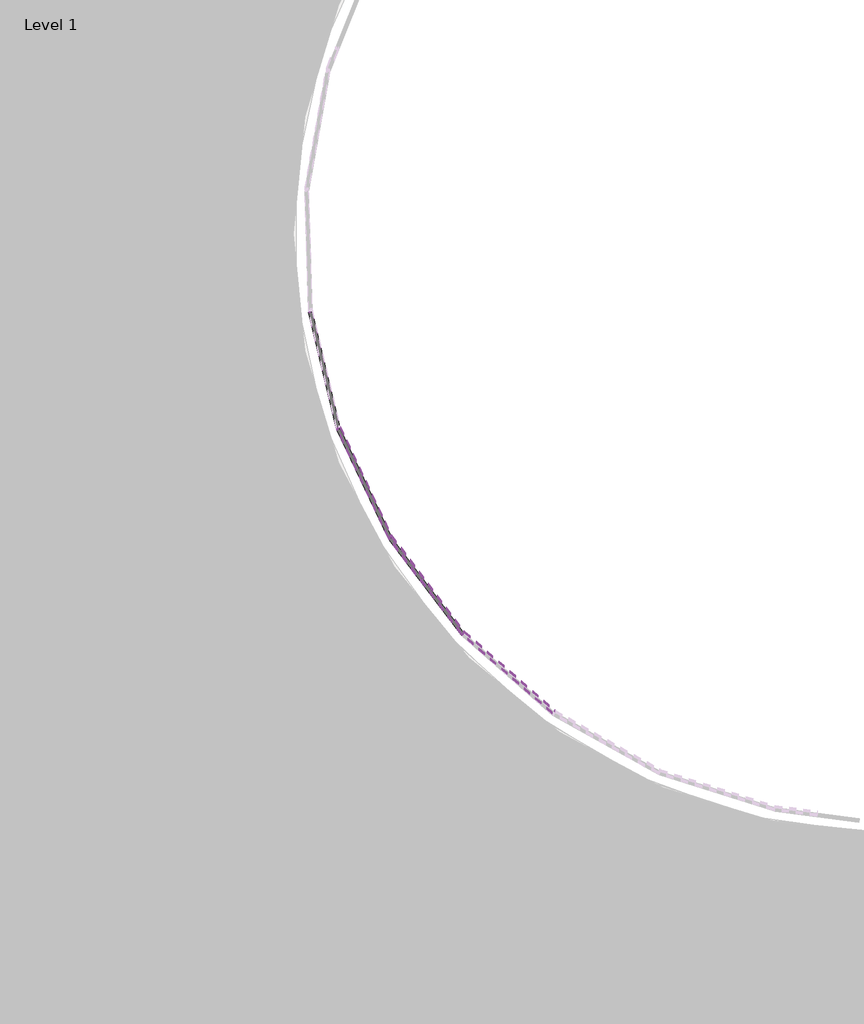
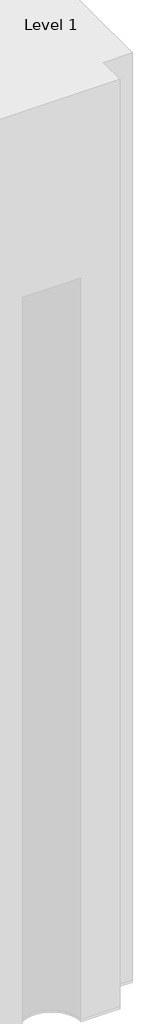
# One storey, part 11 of 20: 124 plates.
"""IFC4 building model written with IfcOpenShell, lengths in millimetres."""

from ifc_helpers import new_model, si_unit, origin, place, context, project, spatial, transform, mapped, element, save
from components import system_panel_glazed_d77d1ebf

model = new_model("IFC4")

# Units and contexts
model_context = context("Model", 3, world=origin())
ifc_project = project(units=[si_unit("LENGTHUNIT", "METRE", prefix="MILLI")], contexts=[model_context])

# Site, building, storey
site = spatial("IfcSite", under=ifc_project)
building = spatial("IfcBuilding", under=site)
storey = spatial("IfcBuildingStorey", under=building, Name="Level 1", Elevation=0.0)

# Plates
placement = place(None, origin())
system_panel_glazed_shape = system_panel_glazed_d77d1ebf(model_context)
element("IfcPlate", 1, ObjectType="System Panel : Glazed", at=placement, inside=storey, context=model_context, shape_type="MappedRepresentation", body=[
    mapped(system_panel_glazed_shape, transform((14455.7045003, -7223.0371257, 0.0), x_axis=(0.23385091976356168, -0.9722724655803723, 0.0), y_axis=(0.9722724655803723, 0.23385091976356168, 0.0), z_axis=(0.0, 0.0, 1.0))),
])
element("IfcPlate", 2, ObjectType="System Panel : Glazed", at=placement, inside=storey, context=model_context, shape_type="MappedRepresentation", body=[
    mapped(system_panel_glazed_shape, transform((14758.1742249, -8080.8285707, 0.0), x_axis=(0.4277189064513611, -0.9039117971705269, 0.0), y_axis=(0.9039117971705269, 0.4277189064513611, 0.0), z_axis=(0.0, 0.0, 1.0))),
])
element("IfcPlate", 3, ObjectType="System Panel : Glazed", at=placement, inside=storey, context=model_context, shape_type="MappedRepresentation", body=[
    mapped(system_panel_glazed_shape, transform((15229.6531587, -8858.6471307, 0.0), x_axis=(0.6035123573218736, -0.7973536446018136, 0.0), y_axis=(0.7973536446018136, 0.6035123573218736, 0.0), z_axis=(0.0, 0.0, 1.0))),
])
element("IfcPlate", 4, ObjectType="System Panel : Glazed", at=placement, inside=storey, context=model_context, shape_type="MappedRepresentation", body=[
    mapped(system_panel_glazed_shape, transform((14455.7045003, -7223.0371257, 3048.0), x_axis=(0.23385091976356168, -0.9722724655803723, 0.0), y_axis=(0.9722724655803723, 0.23385091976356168, 0.0), z_axis=(0.0, 0.0, 1.0))),
])
element("IfcPlate", 5, ObjectType="System Panel : Glazed", at=placement, inside=storey, context=model_context, shape_type="MappedRepresentation", body=[
    mapped(system_panel_glazed_shape, transform((14758.1742249, -8080.8285707, 3048.0), x_axis=(0.4277189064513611, -0.9039117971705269, 0.0), y_axis=(0.9039117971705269, 0.4277189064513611, 0.0), z_axis=(0.0, 0.0, 1.0))),
])
element("IfcPlate", 6, ObjectType="System Panel : Glazed", at=placement, inside=storey, context=model_context, shape_type="MappedRepresentation", body=[
    mapped(system_panel_glazed_shape, transform((15229.6531587, -8858.6471307, 3048.0), x_axis=(0.6035123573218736, -0.7973536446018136, 0.0), y_axis=(0.7973536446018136, 0.6035123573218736, 0.0), z_axis=(0.0, 0.0, 1.0))),
])
element("IfcPlate", 7, ObjectType="System Panel : Glazed", at=placement, inside=storey, context=model_context, shape_type="MappedRepresentation", body=[
    mapped(system_panel_glazed_shape, transform((14455.7045003, -7223.0371257, 6096.0), x_axis=(0.23385091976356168, -0.9722724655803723, 0.0), y_axis=(0.9722724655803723, 0.23385091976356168, 0.0), z_axis=(0.0, 0.0, 1.0))),
])
element("IfcPlate", 8, ObjectType="System Panel : Glazed", at=placement, inside=storey, context=model_context, shape_type="MappedRepresentation", body=[
    mapped(system_panel_glazed_shape, transform((14758.1742249, -8080.8285707, 6096.0), x_axis=(0.4277189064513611, -0.9039117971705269, 0.0), y_axis=(0.9039117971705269, 0.4277189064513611, 0.0), z_axis=(0.0, 0.0, 1.0))),
])
element("IfcPlate", 9, ObjectType="System Panel : Glazed", at=placement, inside=storey, context=model_context, shape_type="MappedRepresentation", body=[
    mapped(system_panel_glazed_shape, transform((15229.6531587, -8858.6471307, 6096.0), x_axis=(0.6035123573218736, -0.7973536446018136, 0.0), y_axis=(0.7973536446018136, 0.6035123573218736, 0.0), z_axis=(0.0, 0.0, 1.0))),
])
element("IfcPlate", 10, ObjectType="System Panel : Glazed", at=placement, inside=storey, context=model_context, shape_type="MappedRepresentation", body=[
    mapped(system_panel_glazed_shape, transform((14455.7045003, -7223.0371257, 9144.0), x_axis=(0.23385091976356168, -0.9722724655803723, 0.0), y_axis=(0.9722724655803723, 0.23385091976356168, 0.0), z_axis=(0.0, 0.0, 1.0))),
])
element("IfcPlate", 11, ObjectType="System Panel : Glazed", at=placement, inside=storey, context=model_context, shape_type="MappedRepresentation", body=[
    mapped(system_panel_glazed_shape, transform((14758.1742249, -8080.8285707, 9144.0), x_axis=(0.4277189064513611, -0.9039117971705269, 0.0), y_axis=(0.9039117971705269, 0.4277189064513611, 0.0), z_axis=(0.0, 0.0, 1.0))),
])
element("IfcPlate", 12, ObjectType="System Panel : Glazed", at=placement, inside=storey, context=model_context, shape_type="MappedRepresentation", body=[
    mapped(system_panel_glazed_shape, transform((15229.6531587, -8858.6471307, 9144.0), x_axis=(0.6035123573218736, -0.7973536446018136, 0.0), y_axis=(0.7973536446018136, 0.6035123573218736, 0.0), z_axis=(0.0, 0.0, 1.0))),
])
element("IfcPlate", 13, ObjectType="System Panel : Glazed", at=placement, inside=storey, context=model_context, shape_type="MappedRepresentation", body=[
    mapped(system_panel_glazed_shape, transform((14455.7045003, -7223.0371257, 12192.0), x_axis=(0.23385091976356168, -0.9722724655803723, 0.0), y_axis=(0.9722724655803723, 0.23385091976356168, 0.0), z_axis=(0.0, 0.0, 1.0))),
])
element("IfcPlate", 14, ObjectType="System Panel : Glazed", at=placement, inside=storey, context=model_context, shape_type="MappedRepresentation", body=[
    mapped(system_panel_glazed_shape, transform((14758.1742249, -8080.8285707, 12192.0), x_axis=(0.4277189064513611, -0.9039117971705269, 0.0), y_axis=(0.9039117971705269, 0.4277189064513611, 0.0), z_axis=(0.0, 0.0, 1.0))),
])
element("IfcPlate", 15, ObjectType="System Panel : Glazed", at=placement, inside=storey, context=model_context, shape_type="MappedRepresentation", body=[
    mapped(system_panel_glazed_shape, transform((15229.6531587, -8858.6471307, 12192.0), x_axis=(0.6035123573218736, -0.7973536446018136, 0.0), y_axis=(0.7973536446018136, 0.6035123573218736, 0.0), z_axis=(0.0, 0.0, 1.0))),
])
element("IfcPlate", 16, ObjectType="System Panel : Glazed", at=placement, inside=storey, context=model_context, shape_type="MappedRepresentation", body=[
    mapped(system_panel_glazed_shape, transform((14455.7045003, -7223.0371257, 15240.0), x_axis=(0.23385091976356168, -0.9722724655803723, 0.0), y_axis=(0.9722724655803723, 0.23385091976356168, 0.0), z_axis=(0.0, 0.0, 1.0))),
])
element("IfcPlate", 17, ObjectType="System Panel : Glazed", at=placement, inside=storey, context=model_context, shape_type="MappedRepresentation", body=[
    mapped(system_panel_glazed_shape, transform((14758.1742249, -8080.8285707, 15240.0), x_axis=(0.4277189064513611, -0.9039117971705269, 0.0), y_axis=(0.9039117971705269, 0.4277189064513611, 0.0), z_axis=(0.0, 0.0, 1.0))),
])
element("IfcPlate", 18, ObjectType="System Panel : Glazed", at=placement, inside=storey, context=model_context, shape_type="MappedRepresentation", body=[
    mapped(system_panel_glazed_shape, transform((15229.6531587, -8858.6471307, 15240.0), x_axis=(0.6035123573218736, -0.7973536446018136, 0.0), y_axis=(0.7973536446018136, 0.6035123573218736, 0.0), z_axis=(0.0, 0.0, 1.0))),
])
element("IfcPlate", 19, ObjectType="System Panel : Glazed", at=placement, inside=storey, context=model_context, shape_type="MappedRepresentation", body=[
    mapped(system_panel_glazed_shape, transform((14455.7045003, -7223.0371257, 18288.0), x_axis=(0.23385091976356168, -0.9722724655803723, 0.0), y_axis=(0.9722724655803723, 0.23385091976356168, 0.0), z_axis=(0.0, 0.0, 1.0))),
])
element("IfcPlate", 20, ObjectType="System Panel : Glazed", at=placement, inside=storey, context=model_context, shape_type="MappedRepresentation", body=[
    mapped(system_panel_glazed_shape, transform((14758.1742249, -8080.8285707, 18288.0), x_axis=(0.4277189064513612, -0.9039117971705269, 0.0), y_axis=(0.9039117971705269, 0.4277189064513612, 0.0), z_axis=(0.0, 0.0, 1.0))),
])
element("IfcPlate", 21, ObjectType="System Panel : Glazed", at=placement, inside=storey, context=model_context, shape_type="MappedRepresentation", body=[
    mapped(system_panel_glazed_shape, transform((15229.6531587, -8858.6471307, 18288.0), x_axis=(0.6035123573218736, -0.7973536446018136, 0.0), y_axis=(0.7973536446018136, 0.6035123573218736, 0.0), z_axis=(0.0, 0.0, 1.0))),
])
element("IfcPlate", 22, ObjectType="System Panel : Glazed", at=placement, inside=storey, context=model_context, shape_type="MappedRepresentation", body=[
    mapped(system_panel_glazed_shape, transform((14455.7045003, -7223.0371257, 21336.0), x_axis=(0.23385091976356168, -0.9722724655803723, 0.0), y_axis=(0.9722724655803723, 0.23385091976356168, 0.0), z_axis=(0.0, 0.0, 1.0))),
])
element("IfcPlate", 23, ObjectType="System Panel : Glazed", at=placement, inside=storey, context=model_context, shape_type="MappedRepresentation", body=[
    mapped(system_panel_glazed_shape, transform((14758.1742249, -8080.8285707, 21336.0), x_axis=(0.4277189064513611, -0.9039117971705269, 0.0), y_axis=(0.9039117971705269, 0.4277189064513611, 0.0), z_axis=(0.0, 0.0, 1.0))),
])
element("IfcPlate", 24, ObjectType="System Panel : Glazed", at=placement, inside=storey, context=model_context, shape_type="MappedRepresentation", body=[
    mapped(system_panel_glazed_shape, transform((15229.6531587, -8858.6471307, 21336.0), x_axis=(0.6035123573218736, -0.7973536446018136, 0.0), y_axis=(0.7973536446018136, 0.6035123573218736, 0.0), z_axis=(0.0, 0.0, 1.0))),
])
element("IfcPlate", 25, ObjectType="System Panel : Glazed", at=placement, inside=storey, context=model_context, shape_type="MappedRepresentation", body=[
    mapped(system_panel_glazed_shape, transform((14455.7045003, -7223.0371257, 24384.0), x_axis=(0.23385091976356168, -0.9722724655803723, 0.0), y_axis=(0.9722724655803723, 0.23385091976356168, 0.0), z_axis=(0.0, 0.0, 1.0))),
])
element("IfcPlate", 26, ObjectType="System Panel : Glazed", at=placement, inside=storey, context=model_context, shape_type="MappedRepresentation", body=[
    mapped(system_panel_glazed_shape, transform((14758.1742249, -8080.8285707, 24384.0), x_axis=(0.4277189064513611, -0.9039117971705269, 0.0), y_axis=(0.9039117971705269, 0.4277189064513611, 0.0), z_axis=(0.0, 0.0, 1.0))),
])
element("IfcPlate", 27, ObjectType="System Panel : Glazed", at=placement, inside=storey, context=model_context, shape_type="MappedRepresentation", body=[
    mapped(system_panel_glazed_shape, transform((15229.6531587, -8858.6471307, 24384.0), x_axis=(0.6035123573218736, -0.7973536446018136, 0.0), y_axis=(0.7973536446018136, 0.6035123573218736, 0.0), z_axis=(0.0, 0.0, 1.0))),
])
element("IfcPlate", 28, ObjectType="System Panel : Glazed", at=placement, inside=storey, context=model_context, shape_type="MappedRepresentation", body=[
    mapped(system_panel_glazed_shape, transform((14455.7045003, -7223.0371257, 27432.0), x_axis=(0.23385091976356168, -0.9722724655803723, 0.0), y_axis=(0.9722724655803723, 0.23385091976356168, 0.0), z_axis=(0.0, 0.0, 1.0))),
])
element("IfcPlate", 29, ObjectType="System Panel : Glazed", at=placement, inside=storey, context=model_context, shape_type="MappedRepresentation", body=[
    mapped(system_panel_glazed_shape, transform((14758.1742249, -8080.8285707, 27432.0), x_axis=(0.4277189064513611, -0.9039117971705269, 0.0), y_axis=(0.9039117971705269, 0.4277189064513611, 0.0), z_axis=(0.0, 0.0, 1.0))),
])
element("IfcPlate", 30, ObjectType="System Panel : Glazed", at=placement, inside=storey, context=model_context, shape_type="MappedRepresentation", body=[
    mapped(system_panel_glazed_shape, transform((15229.6531587, -8858.6471307, 27432.0), x_axis=(0.6035123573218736, -0.7973536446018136, 0.0), y_axis=(0.7973536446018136, 0.6035123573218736, 0.0), z_axis=(0.0, 0.0, 1.0))),
])
element("IfcPlate", 31, ObjectType="System Panel : Glazed", at=placement, inside=storey, context=model_context, shape_type="MappedRepresentation", body=[
    mapped(system_panel_glazed_shape, transform((14455.7045003, -7223.0371257, 30480.0), x_axis=(0.23385091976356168, -0.9722724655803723, 0.0), y_axis=(0.9722724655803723, 0.23385091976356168, 0.0), z_axis=(0.0, 0.0, 1.0))),
])
element("IfcPlate", 32, ObjectType="System Panel : Glazed", at=placement, inside=storey, context=model_context, shape_type="MappedRepresentation", body=[
    mapped(system_panel_glazed_shape, transform((14758.1742249, -8080.8285707, 30480.0), x_axis=(0.4277189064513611, -0.9039117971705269, 0.0), y_axis=(0.9039117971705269, 0.4277189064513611, 0.0), z_axis=(0.0, 0.0, 1.0))),
])
element("IfcPlate", 33, ObjectType="System Panel : Glazed", at=placement, inside=storey, context=model_context, shape_type="MappedRepresentation", body=[
    mapped(system_panel_glazed_shape, transform((15229.6531587, -8858.6471307, 30480.0), x_axis=(0.6035123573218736, -0.7973536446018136, 0.0), y_axis=(0.7973536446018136, 0.6035123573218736, 0.0), z_axis=(0.0, 0.0, 1.0))),
])
element("IfcPlate", 34, ObjectType="System Panel : Glazed", at=placement, inside=storey, context=model_context, shape_type="MappedRepresentation", body=[
    mapped(system_panel_glazed_shape, transform((14455.7045003, -7223.0371257, 33528.0), x_axis=(0.23385091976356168, -0.9722724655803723, 0.0), y_axis=(0.9722724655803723, 0.23385091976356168, 0.0), z_axis=(0.0, 0.0, 1.0))),
])
element("IfcPlate", 35, ObjectType="System Panel : Glazed", at=placement, inside=storey, context=model_context, shape_type="MappedRepresentation", body=[
    mapped(system_panel_glazed_shape, transform((14758.1742249, -8080.8285707, 33528.0), x_axis=(0.4277189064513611, -0.9039117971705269, 0.0), y_axis=(0.9039117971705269, 0.4277189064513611, 0.0), z_axis=(0.0, 0.0, 1.0))),
])
element("IfcPlate", 36, ObjectType="System Panel : Glazed", at=placement, inside=storey, context=model_context, shape_type="MappedRepresentation", body=[
    mapped(system_panel_glazed_shape, transform((15229.6531587, -8858.6471307, 33528.0), x_axis=(0.6035123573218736, -0.7973536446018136, 0.0), y_axis=(0.7973536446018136, 0.6035123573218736, 0.0), z_axis=(0.0, 0.0, 1.0))),
])
element("IfcPlate", 37, ObjectType="System Panel : Glazed", at=placement, inside=storey, context=model_context, shape_type="MappedRepresentation", body=[
    mapped(system_panel_glazed_shape, transform((14455.7045003, -7223.0371257, 36576.0), x_axis=(0.23385091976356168, -0.9722724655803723, 0.0), y_axis=(0.9722724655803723, 0.23385091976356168, 0.0), z_axis=(0.0, 0.0, 1.0))),
])
element("IfcPlate", 38, ObjectType="System Panel : Glazed", at=placement, inside=storey, context=model_context, shape_type="MappedRepresentation", body=[
    mapped(system_panel_glazed_shape, transform((14758.1742249, -8080.8285707, 36576.0), x_axis=(0.4277189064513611, -0.9039117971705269, 0.0), y_axis=(0.9039117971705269, 0.4277189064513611, 0.0), z_axis=(0.0, 0.0, 1.0))),
])
element("IfcPlate", 39, ObjectType="System Panel : Glazed", at=placement, inside=storey, context=model_context, shape_type="MappedRepresentation", body=[
    mapped(system_panel_glazed_shape, transform((15229.6531587, -8858.6471307, 36576.0), x_axis=(0.6035123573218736, -0.7973536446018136, 0.0), y_axis=(0.7973536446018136, 0.6035123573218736, 0.0), z_axis=(0.0, 0.0, 1.0))),
])
element("IfcPlate", 40, ObjectType="System Panel : Glazed", at=placement, inside=storey, context=model_context, shape_type="MappedRepresentation", body=[
    mapped(system_panel_glazed_shape, transform((15850.2175557, -9523.6237667, 36576.0), x_axis=(0.7538025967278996, -0.6571009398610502, 0.0), y_axis=(0.6571009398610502, 0.7538025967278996, 0.0), z_axis=(0.0, 0.0, 1.0))),
])
element("IfcPlate", 41, ObjectType="System Panel : Glazed", at=placement, inside=storey, context=model_context, shape_type="MappedRepresentation", body=[
    mapped(system_panel_glazed_shape, transform((14455.7045003, -7223.0371257, 39624.0), x_axis=(0.23385091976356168, -0.9722724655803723, 0.0), y_axis=(0.9722724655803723, 0.23385091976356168, 0.0), z_axis=(0.0, 0.0, 1.0))),
])
element("IfcPlate", 42, ObjectType="System Panel : Glazed", at=placement, inside=storey, context=model_context, shape_type="MappedRepresentation", body=[
    mapped(system_panel_glazed_shape, transform((14758.1742249, -8080.8285707, 39624.0), x_axis=(0.4277189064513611, -0.9039117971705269, 0.0), y_axis=(0.9039117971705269, 0.4277189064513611, 0.0), z_axis=(0.0, 0.0, 1.0))),
])
element("IfcPlate", 43, ObjectType="System Panel : Glazed", at=placement, inside=storey, context=model_context, shape_type="MappedRepresentation", body=[
    mapped(system_panel_glazed_shape, transform((15229.6531587, -8858.6471307, 39624.0), x_axis=(0.6035123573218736, -0.7973536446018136, 0.0), y_axis=(0.7973536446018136, 0.6035123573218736, 0.0), z_axis=(0.0, 0.0, 1.0))),
])
element("IfcPlate", 44, ObjectType="System Panel : Glazed", at=placement, inside=storey, context=model_context, shape_type="MappedRepresentation", body=[
    mapped(system_panel_glazed_shape, transform((15850.2175557, -9523.6237667, 39624.0), x_axis=(0.7538025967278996, -0.6571009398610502, 0.0), y_axis=(0.6571009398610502, 0.7538025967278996, 0.0), z_axis=(0.0, 0.0, 1.0))),
])
element("IfcPlate", 45, ObjectType="System Panel : Glazed", at=placement, inside=storey, context=model_context, shape_type="MappedRepresentation", body=[
    mapped(system_panel_glazed_shape, transform((14455.7045003, -7223.0371257, 42672.0), x_axis=(0.23385091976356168, -0.9722724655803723, 0.0), y_axis=(0.9722724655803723, 0.23385091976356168, 0.0), z_axis=(0.0, 0.0, 1.0))),
])
element("IfcPlate", 46, ObjectType="System Panel : Glazed", at=placement, inside=storey, context=model_context, shape_type="MappedRepresentation", body=[
    mapped(system_panel_glazed_shape, transform((14758.1742249, -8080.8285707, 42672.0), x_axis=(0.4277189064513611, -0.9039117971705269, 0.0), y_axis=(0.9039117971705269, 0.4277189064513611, 0.0), z_axis=(0.0, 0.0, 1.0))),
])
element("IfcPlate", 47, ObjectType="System Panel : Glazed", at=placement, inside=storey, context=model_context, shape_type="MappedRepresentation", body=[
    mapped(system_panel_glazed_shape, transform((15229.6531587, -8858.6471307, 42672.0), x_axis=(0.6035123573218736, -0.7973536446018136, 0.0), y_axis=(0.7973536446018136, 0.6035123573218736, 0.0), z_axis=(0.0, 0.0, 1.0))),
])
element("IfcPlate", 48, ObjectType="System Panel : Glazed", at=placement, inside=storey, context=model_context, shape_type="MappedRepresentation", body=[
    mapped(system_panel_glazed_shape, transform((15850.2175557, -9523.6237667, 42672.0), x_axis=(0.7538025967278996, -0.6571009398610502, 0.0), y_axis=(0.6571009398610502, 0.7538025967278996, 0.0), z_axis=(0.0, 0.0, 1.0))),
])
element("IfcPlate", 49, ObjectType="System Panel : Glazed", at=placement, inside=storey, context=model_context, shape_type="MappedRepresentation", body=[
    mapped(system_panel_glazed_shape, transform((14455.7045003, -7223.0371257, 45720.0), x_axis=(0.23385091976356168, -0.9722724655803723, 0.0), y_axis=(0.9722724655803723, 0.23385091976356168, 0.0), z_axis=(0.0, 0.0, 1.0))),
])
element("IfcPlate", 50, ObjectType="System Panel : Glazed", at=placement, inside=storey, context=model_context, shape_type="MappedRepresentation", body=[
    mapped(system_panel_glazed_shape, transform((14758.1742249, -8080.8285707, 45720.0), x_axis=(0.4277189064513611, -0.9039117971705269, 0.0), y_axis=(0.9039117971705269, 0.4277189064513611, 0.0), z_axis=(0.0, 0.0, 1.0))),
])
element("IfcPlate", 51, ObjectType="System Panel : Glazed", at=placement, inside=storey, context=model_context, shape_type="MappedRepresentation", body=[
    mapped(system_panel_glazed_shape, transform((15229.6531587, -8858.6471307, 45720.0), x_axis=(0.6035123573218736, -0.7973536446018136, 0.0), y_axis=(0.7973536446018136, 0.6035123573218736, 0.0), z_axis=(0.0, 0.0, 1.0))),
])
element("IfcPlate", 52, ObjectType="System Panel : Glazed", at=placement, inside=storey, context=model_context, shape_type="MappedRepresentation", body=[
    mapped(system_panel_glazed_shape, transform((15850.2175557, -9523.6237667, 45720.0), x_axis=(0.7538025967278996, -0.6571009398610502, 0.0), y_axis=(0.6571009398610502, 0.7538025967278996, 0.0), z_axis=(0.0, 0.0, 1.0))),
])
element("IfcPlate", 53, ObjectType="System Panel : Glazed", at=placement, inside=storey, context=model_context, shape_type="MappedRepresentation", body=[
    mapped(system_panel_glazed_shape, transform((14758.1742249, -8080.8285707, 48768.0), x_axis=(0.4277189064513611, -0.9039117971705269, 0.0), y_axis=(0.9039117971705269, 0.4277189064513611, 0.0), z_axis=(0.0, 0.0, 1.0))),
])
element("IfcPlate", 54, ObjectType="System Panel : Glazed", at=placement, inside=storey, context=model_context, shape_type="MappedRepresentation", body=[
    mapped(system_panel_glazed_shape, transform((15229.6531587, -8858.6471307, 48768.0), x_axis=(0.6035123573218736, -0.7973536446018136, 0.0), y_axis=(0.7973536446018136, 0.6035123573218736, 0.0), z_axis=(0.0, 0.0, 1.0))),
])
element("IfcPlate", 55, ObjectType="System Panel : Glazed", at=placement, inside=storey, context=model_context, shape_type="MappedRepresentation", body=[
    mapped(system_panel_glazed_shape, transform((15850.2175557, -9523.6237667, 48768.0), x_axis=(0.7538025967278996, -0.6571009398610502, 0.0), y_axis=(0.6571009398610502, 0.7538025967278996, 0.0), z_axis=(0.0, 0.0, 1.0))),
])
element("IfcPlate", 56, ObjectType="System Panel : Glazed", at=placement, inside=storey, context=model_context, shape_type="MappedRepresentation", body=[
    mapped(system_panel_glazed_shape, transform((14758.1742249, -8080.8285707, 51816.0), x_axis=(0.4277189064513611, -0.9039117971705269, 0.0), y_axis=(0.9039117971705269, 0.4277189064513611, 0.0), z_axis=(0.0, 0.0, 1.0))),
])
element("IfcPlate", 57, ObjectType="System Panel : Glazed", at=placement, inside=storey, context=model_context, shape_type="MappedRepresentation", body=[
    mapped(system_panel_glazed_shape, transform((15229.6531587, -8858.6471307, 51816.0), x_axis=(0.6035123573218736, -0.7973536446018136, 0.0), y_axis=(0.7973536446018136, 0.6035123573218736, 0.0), z_axis=(0.0, 0.0, 1.0))),
])
element("IfcPlate", 58, ObjectType="System Panel : Glazed", at=placement, inside=storey, context=model_context, shape_type="MappedRepresentation", body=[
    mapped(system_panel_glazed_shape, transform((15850.2175557, -9523.6237667, 51816.0), x_axis=(0.7538025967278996, -0.6571009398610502, 0.0), y_axis=(0.6571009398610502, 0.7538025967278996, 0.0), z_axis=(0.0, 0.0, 1.0))),
])
element("IfcPlate", 59, ObjectType="System Panel : Glazed", at=placement, inside=storey, context=model_context, shape_type="MappedRepresentation", body=[
    mapped(system_panel_glazed_shape, transform((14758.1742249, -8080.8285707, 54864.0), x_axis=(0.4277189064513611, -0.9039117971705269, 0.0), y_axis=(0.9039117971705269, 0.4277189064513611, 0.0), z_axis=(0.0, 0.0, 1.0))),
])
element("IfcPlate", 60, ObjectType="System Panel : Glazed", at=placement, inside=storey, context=model_context, shape_type="MappedRepresentation", body=[
    mapped(system_panel_glazed_shape, transform((15229.6531587, -8858.6471307, 54864.0), x_axis=(0.6035123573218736, -0.7973536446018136, 0.0), y_axis=(0.7973536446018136, 0.6035123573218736, 0.0), z_axis=(0.0, 0.0, 1.0))),
])
element("IfcPlate", 61, ObjectType="System Panel : Glazed", at=placement, inside=storey, context=model_context, shape_type="MappedRepresentation", body=[
    mapped(system_panel_glazed_shape, transform((15850.2175557, -9523.6237667, 54864.0), x_axis=(0.7538025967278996, -0.6571009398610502, 0.0), y_axis=(0.6571009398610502, 0.7538025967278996, 0.0), z_axis=(0.0, 0.0, 1.0))),
])
element("IfcPlate", 62, ObjectType="System Panel : Glazed", at=placement, inside=storey, context=model_context, shape_type="MappedRepresentation", body=[
    mapped(system_panel_glazed_shape, transform((14758.1742249, -8080.8285707, 57912.0), x_axis=(0.4277189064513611, -0.9039117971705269, 0.0), y_axis=(0.9039117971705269, 0.4277189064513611, 0.0), z_axis=(0.0, 0.0, 1.0))),
])
element("IfcPlate", 63, ObjectType="System Panel : Glazed", at=placement, inside=storey, context=model_context, shape_type="MappedRepresentation", body=[
    mapped(system_panel_glazed_shape, transform((15229.6531587, -8858.6471307, 57912.0), x_axis=(0.6035123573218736, -0.7973536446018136, 0.0), y_axis=(0.7973536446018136, 0.6035123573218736, 0.0), z_axis=(0.0, 0.0, 1.0))),
])
element("IfcPlate", 64, ObjectType="System Panel : Glazed", at=placement, inside=storey, context=model_context, shape_type="MappedRepresentation", body=[
    mapped(system_panel_glazed_shape, transform((15850.2175557, -9523.6237667, 57912.0), x_axis=(0.7538025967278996, -0.6571009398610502, 0.0), y_axis=(0.6571009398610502, 0.7538025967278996, 0.0), z_axis=(0.0, 0.0, 1.0))),
])
element("IfcPlate", 65, ObjectType="System Panel : Glazed", at=placement, inside=storey, context=model_context, shape_type="MappedRepresentation", body=[
    mapped(system_panel_glazed_shape, transform((14758.1742249, -8080.8285707, 60960.0), x_axis=(0.4277189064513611, -0.9039117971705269, 0.0), y_axis=(0.9039117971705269, 0.4277189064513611, 0.0), z_axis=(0.0, 0.0, 1.0))),
])
element("IfcPlate", 66, ObjectType="System Panel : Glazed", at=placement, inside=storey, context=model_context, shape_type="MappedRepresentation", body=[
    mapped(system_panel_glazed_shape, transform((15229.6531587, -8858.6471307, 60960.0), x_axis=(0.6035123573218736, -0.7973536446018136, 0.0), y_axis=(0.7973536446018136, 0.6035123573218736, 0.0), z_axis=(0.0, 0.0, 1.0))),
])
element("IfcPlate", 67, ObjectType="System Panel : Glazed", at=placement, inside=storey, context=model_context, shape_type="MappedRepresentation", body=[
    mapped(system_panel_glazed_shape, transform((15850.2175557, -9523.6237667, 60960.0), x_axis=(0.7538025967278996, -0.6571009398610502, 0.0), y_axis=(0.6571009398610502, 0.7538025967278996, 0.0), z_axis=(0.0, 0.0, 1.0))),
])
element("IfcPlate", 68, ObjectType="System Panel : Glazed", at=placement, inside=storey, context=model_context, shape_type="MappedRepresentation", body=[
    mapped(system_panel_glazed_shape, transform((14758.1742249, -8080.8285707, 64008.0), x_axis=(0.4277189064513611, -0.9039117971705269, 0.0), y_axis=(0.9039117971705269, 0.4277189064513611, 0.0), z_axis=(0.0, 0.0, 1.0))),
])
element("IfcPlate", 69, ObjectType="System Panel : Glazed", at=placement, inside=storey, context=model_context, shape_type="MappedRepresentation", body=[
    mapped(system_panel_glazed_shape, transform((15229.6531587, -8858.6471307, 64008.0), x_axis=(0.6035123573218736, -0.7973536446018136, 0.0), y_axis=(0.7973536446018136, 0.6035123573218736, 0.0), z_axis=(0.0, 0.0, 1.0))),
])
element("IfcPlate", 70, ObjectType="System Panel : Glazed", at=placement, inside=storey, context=model_context, shape_type="MappedRepresentation", body=[
    mapped(system_panel_glazed_shape, transform((15850.2175557, -9523.6237667, 64008.0), x_axis=(0.7538025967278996, -0.6571009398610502, 0.0), y_axis=(0.6571009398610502, 0.7538025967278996, 0.0), z_axis=(0.0, 0.0, 1.0))),
])
element("IfcPlate", 71, ObjectType="System Panel : Glazed", at=placement, inside=storey, context=model_context, shape_type="MappedRepresentation", body=[
    mapped(system_panel_glazed_shape, transform((14758.1742249, -8080.8285707, 67056.0), x_axis=(0.4277189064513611, -0.9039117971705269, 0.0), y_axis=(0.9039117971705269, 0.4277189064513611, 0.0), z_axis=(0.0, 0.0, 1.0))),
])
element("IfcPlate", 72, ObjectType="System Panel : Glazed", at=placement, inside=storey, context=model_context, shape_type="MappedRepresentation", body=[
    mapped(system_panel_glazed_shape, transform((15229.6531587, -8858.6471307, 67056.0), x_axis=(0.6035123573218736, -0.7973536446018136, 0.0), y_axis=(0.7973536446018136, 0.6035123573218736, 0.0), z_axis=(0.0, 0.0, 1.0))),
])
element("IfcPlate", 73, ObjectType="System Panel : Glazed", at=placement, inside=storey, context=model_context, shape_type="MappedRepresentation", body=[
    mapped(system_panel_glazed_shape, transform((15850.2175557, -9523.6237667, 67056.0), x_axis=(0.7538025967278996, -0.6571009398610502, 0.0), y_axis=(0.6571009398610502, 0.7538025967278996, 0.0), z_axis=(0.0, 0.0, 1.0))),
])
element("IfcPlate", 74, ObjectType="System Panel : Glazed", at=placement, inside=storey, context=model_context, shape_type="MappedRepresentation", body=[
    mapped(system_panel_glazed_shape, transform((14758.1742249, -8080.8285707, 70104.0), x_axis=(0.4277189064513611, -0.9039117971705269, 0.0), y_axis=(0.9039117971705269, 0.4277189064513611, 0.0), z_axis=(0.0, 0.0, 1.0))),
])
element("IfcPlate", 75, ObjectType="System Panel : Glazed", at=placement, inside=storey, context=model_context, shape_type="MappedRepresentation", body=[
    mapped(system_panel_glazed_shape, transform((15229.6531587, -8858.6471307, 70104.0), x_axis=(0.6035123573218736, -0.7973536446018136, 0.0), y_axis=(0.7973536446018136, 0.6035123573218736, 0.0), z_axis=(0.0, 0.0, 1.0))),
])
element("IfcPlate", 76, ObjectType="System Panel : Glazed", at=placement, inside=storey, context=model_context, shape_type="MappedRepresentation", body=[
    mapped(system_panel_glazed_shape, transform((15850.2175557, -9523.6237667, 70104.0), x_axis=(0.7538025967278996, -0.6571009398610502, 0.0), y_axis=(0.6571009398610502, 0.7538025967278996, 0.0), z_axis=(0.0, 0.0, 1.0))),
])
element("IfcPlate", 77, ObjectType="System Panel : Glazed", at=placement, inside=storey, context=model_context, shape_type="MappedRepresentation", body=[
    mapped(system_panel_glazed_shape, transform((14758.1742249, -8080.8285707, 73152.0), x_axis=(0.4277189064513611, -0.9039117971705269, 0.0), y_axis=(0.9039117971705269, 0.4277189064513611, 0.0), z_axis=(0.0, 0.0, 1.0))),
])
element("IfcPlate", 78, ObjectType="System Panel : Glazed", at=placement, inside=storey, context=model_context, shape_type="MappedRepresentation", body=[
    mapped(system_panel_glazed_shape, transform((15229.6531587, -8858.6471307, 73152.0), x_axis=(0.6035123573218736, -0.7973536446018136, 0.0), y_axis=(0.7973536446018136, 0.6035123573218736, 0.0), z_axis=(0.0, 0.0, 1.0))),
])
element("IfcPlate", 79, ObjectType="System Panel : Glazed", at=placement, inside=storey, context=model_context, shape_type="MappedRepresentation", body=[
    mapped(system_panel_glazed_shape, transform((15850.2175557, -9523.6237667, 73152.0), x_axis=(0.7538025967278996, -0.6571009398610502, 0.0), y_axis=(0.6571009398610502, 0.7538025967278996, 0.0), z_axis=(0.0, 0.0, 1.0))),
])
element("IfcPlate", 80, ObjectType="System Panel : Glazed", at=placement, inside=storey, context=model_context, shape_type="MappedRepresentation", body=[
    mapped(system_panel_glazed_shape, transform((14758.1742249, -8080.8285707, 76200.0), x_axis=(0.4277189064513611, -0.9039117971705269, 0.0), y_axis=(0.9039117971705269, 0.4277189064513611, 0.0), z_axis=(0.0, 0.0, 1.0))),
])
element("IfcPlate", 81, ObjectType="System Panel : Glazed", at=placement, inside=storey, context=model_context, shape_type="MappedRepresentation", body=[
    mapped(system_panel_glazed_shape, transform((15229.6531587, -8858.6471307, 76200.0), x_axis=(0.6035123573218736, -0.7973536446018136, 0.0), y_axis=(0.7973536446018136, 0.6035123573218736, 0.0), z_axis=(0.0, 0.0, 1.0))),
])
element("IfcPlate", 82, ObjectType="System Panel : Glazed", at=placement, inside=storey, context=model_context, shape_type="MappedRepresentation", body=[
    mapped(system_panel_glazed_shape, transform((15850.2175557, -9523.6237667, 76200.0), x_axis=(0.7538025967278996, -0.6571009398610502, 0.0), y_axis=(0.6571009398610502, 0.7538025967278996, 0.0), z_axis=(0.0, 0.0, 1.0))),
])
element("IfcPlate", 83, ObjectType="System Panel : Glazed", at=placement, inside=storey, context=model_context, shape_type="MappedRepresentation", body=[
    mapped(system_panel_glazed_shape, transform((14758.1742249, -8080.8285707, 79248.0), x_axis=(0.4277189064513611, -0.9039117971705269, 0.0), y_axis=(0.9039117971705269, 0.4277189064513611, 0.0), z_axis=(0.0, 0.0, 1.0))),
])
element("IfcPlate", 84, ObjectType="System Panel : Glazed", at=placement, inside=storey, context=model_context, shape_type="MappedRepresentation", body=[
    mapped(system_panel_glazed_shape, transform((15229.6531587, -8858.6471307, 79248.0), x_axis=(0.6035123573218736, -0.7973536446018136, 0.0), y_axis=(0.7973536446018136, 0.6035123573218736, 0.0), z_axis=(0.0, 0.0, 1.0))),
])
element("IfcPlate", 85, ObjectType="System Panel : Glazed", at=placement, inside=storey, context=model_context, shape_type="MappedRepresentation", body=[
    mapped(system_panel_glazed_shape, transform((15850.2175557, -9523.6237667, 79248.0), x_axis=(0.7538025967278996, -0.6571009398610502, 0.0), y_axis=(0.6571009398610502, 0.7538025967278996, 0.0), z_axis=(0.0, 0.0, 1.0))),
])
element("IfcPlate", 86, ObjectType="System Panel : Glazed", at=placement, inside=storey, context=model_context, shape_type="MappedRepresentation", body=[
    mapped(system_panel_glazed_shape, transform((14758.1742249, -8080.8285707, 82296.0), x_axis=(0.4277189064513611, -0.9039117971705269, 0.0), y_axis=(0.9039117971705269, 0.4277189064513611, 0.0), z_axis=(0.0, 0.0, 1.0))),
])
element("IfcPlate", 87, ObjectType="System Panel : Glazed", at=placement, inside=storey, context=model_context, shape_type="MappedRepresentation", body=[
    mapped(system_panel_glazed_shape, transform((15229.6531587, -8858.6471307, 82296.0), x_axis=(0.6035123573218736, -0.7973536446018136, 0.0), y_axis=(0.7973536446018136, 0.6035123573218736, 0.0), z_axis=(0.0, 0.0, 1.0))),
])
element("IfcPlate", 88, ObjectType="System Panel : Glazed", at=placement, inside=storey, context=model_context, shape_type="MappedRepresentation", body=[
    mapped(system_panel_glazed_shape, transform((15850.2175557, -9523.6237667, 82296.0), x_axis=(0.7538025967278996, -0.6571009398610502, 0.0), y_axis=(0.6571009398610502, 0.7538025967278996, 0.0), z_axis=(0.0, 0.0, 1.0))),
])
element("IfcPlate", 89, ObjectType="System Panel : Glazed", at=placement, inside=storey, context=model_context, shape_type="MappedRepresentation", body=[
    mapped(system_panel_glazed_shape, transform((14758.1742249, -8080.8285707, 85344.0), x_axis=(0.4277189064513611, -0.9039117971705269, 0.0), y_axis=(0.9039117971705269, 0.4277189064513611, 0.0), z_axis=(0.0, 0.0, 1.0))),
])
element("IfcPlate", 90, ObjectType="System Panel : Glazed", at=placement, inside=storey, context=model_context, shape_type="MappedRepresentation", body=[
    mapped(system_panel_glazed_shape, transform((15229.6531587, -8858.6471307, 85344.0), x_axis=(0.6035123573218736, -0.7973536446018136, 0.0), y_axis=(0.7973536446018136, 0.6035123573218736, 0.0), z_axis=(0.0, 0.0, 1.0))),
])
element("IfcPlate", 91, ObjectType="System Panel : Glazed", at=placement, inside=storey, context=model_context, shape_type="MappedRepresentation", body=[
    mapped(system_panel_glazed_shape, transform((15850.2175557, -9523.6237667, 85344.0), x_axis=(0.7538025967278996, -0.6571009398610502, 0.0), y_axis=(0.6571009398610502, 0.7538025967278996, 0.0), z_axis=(0.0, 0.0, 1.0))),
])
element("IfcPlate", 92, ObjectType="System Panel : Glazed", at=placement, inside=storey, context=model_context, shape_type="MappedRepresentation", body=[
    mapped(system_panel_glazed_shape, transform((14758.1742249, -8080.8285707, 88392.0), x_axis=(0.4277189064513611, -0.9039117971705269, 0.0), y_axis=(0.9039117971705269, 0.4277189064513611, 0.0), z_axis=(0.0, 0.0, 1.0))),
])
element("IfcPlate", 93, ObjectType="System Panel : Glazed", at=placement, inside=storey, context=model_context, shape_type="MappedRepresentation", body=[
    mapped(system_panel_glazed_shape, transform((15229.6531587, -8858.6471307, 88392.0), x_axis=(0.6035123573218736, -0.7973536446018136, 0.0), y_axis=(0.7973536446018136, 0.6035123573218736, 0.0), z_axis=(0.0, 0.0, 1.0))),
])
element("IfcPlate", 94, ObjectType="System Panel : Glazed", at=placement, inside=storey, context=model_context, shape_type="MappedRepresentation", body=[
    mapped(system_panel_glazed_shape, transform((15850.2175557, -9523.6237667, 88392.0), x_axis=(0.7538025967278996, -0.6571009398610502, 0.0), y_axis=(0.6571009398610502, 0.7538025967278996, 0.0), z_axis=(0.0, 0.0, 1.0))),
])
element("IfcPlate", 95, ObjectType="System Panel : Glazed", at=placement, inside=storey, context=model_context, shape_type="MappedRepresentation", body=[
    mapped(system_panel_glazed_shape, transform((14758.1742249, -8080.8285707, 91440.0), x_axis=(0.4277189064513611, -0.9039117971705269, 0.0), y_axis=(0.9039117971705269, 0.4277189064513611, 0.0), z_axis=(0.0, 0.0, 1.0))),
])
element("IfcPlate", 96, ObjectType="System Panel : Glazed", at=placement, inside=storey, context=model_context, shape_type="MappedRepresentation", body=[
    mapped(system_panel_glazed_shape, transform((15229.6531587, -8858.6471307, 91440.0), x_axis=(0.6035123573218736, -0.7973536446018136, 0.0), y_axis=(0.7973536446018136, 0.6035123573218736, 0.0), z_axis=(0.0, 0.0, 1.0))),
])
element("IfcPlate", 97, ObjectType="System Panel : Glazed", at=placement, inside=storey, context=model_context, shape_type="MappedRepresentation", body=[
    mapped(system_panel_glazed_shape, transform((15850.2175557, -9523.6237667, 91440.0), x_axis=(0.7538025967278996, -0.6571009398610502, 0.0), y_axis=(0.6571009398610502, 0.7538025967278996, 0.0), z_axis=(0.0, 0.0, 1.0))),
])
element("IfcPlate", 98, ObjectType="System Panel : Glazed", at=placement, inside=storey, context=model_context, shape_type="MappedRepresentation", body=[
    mapped(system_panel_glazed_shape, transform((14758.1742249, -8080.8285707, 94488.0), x_axis=(0.4277189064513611, -0.9039117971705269, 0.0), y_axis=(0.9039117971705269, 0.4277189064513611, 0.0), z_axis=(0.0, 0.0, 1.0))),
])
element("IfcPlate", 99, ObjectType="System Panel : Glazed", at=placement, inside=storey, context=model_context, shape_type="MappedRepresentation", body=[
    mapped(system_panel_glazed_shape, transform((15229.6531587, -8858.6471307, 94488.0), x_axis=(0.6035123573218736, -0.7973536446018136, 0.0), y_axis=(0.7973536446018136, 0.6035123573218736, 0.0), z_axis=(0.0, 0.0, 1.0))),
])
element("IfcPlate", 100, ObjectType="System Panel : Glazed", at=placement, inside=storey, context=model_context, shape_type="MappedRepresentation", body=[
    mapped(system_panel_glazed_shape, transform((15850.2175557, -9523.6237667, 94488.0), x_axis=(0.7538025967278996, -0.6571009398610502, 0.0), y_axis=(0.6571009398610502, 0.7538025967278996, 0.0), z_axis=(0.0, 0.0, 1.0))),
])
element("IfcPlate", 101, ObjectType="System Panel : Glazed", at=placement, inside=storey, context=model_context, shape_type="MappedRepresentation", body=[
    mapped(system_panel_glazed_shape, transform((14758.1742249, -8080.8285707, 97536.0), x_axis=(0.4277189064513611, -0.9039117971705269, 0.0), y_axis=(0.9039117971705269, 0.4277189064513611, 0.0), z_axis=(0.0, 0.0, 1.0))),
])
element("IfcPlate", 102, ObjectType="System Panel : Glazed", at=placement, inside=storey, context=model_context, shape_type="MappedRepresentation", body=[
    mapped(system_panel_glazed_shape, transform((15229.6531587, -8858.6471307, 97536.0), x_axis=(0.6035123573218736, -0.7973536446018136, 0.0), y_axis=(0.7973536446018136, 0.6035123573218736, 0.0), z_axis=(0.0, 0.0, 1.0))),
])
element("IfcPlate", 103, ObjectType="System Panel : Glazed", at=placement, inside=storey, context=model_context, shape_type="MappedRepresentation", body=[
    mapped(system_panel_glazed_shape, transform((15850.2175557, -9523.6237667, 97536.0), x_axis=(0.7538025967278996, -0.6571009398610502, 0.0), y_axis=(0.6571009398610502, 0.7538025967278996, 0.0), z_axis=(0.0, 0.0, 1.0))),
])
element("IfcPlate", 104, ObjectType="System Panel : Glazed", at=placement, inside=storey, context=model_context, shape_type="MappedRepresentation", body=[
    mapped(system_panel_glazed_shape, transform((14758.1742249, -8080.8285707, 100584.0), x_axis=(0.4277189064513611, -0.9039117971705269, 0.0), y_axis=(0.9039117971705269, 0.4277189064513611, 0.0), z_axis=(0.0, 0.0, 1.0))),
])
element("IfcPlate", 105, ObjectType="System Panel : Glazed", at=placement, inside=storey, context=model_context, shape_type="MappedRepresentation", body=[
    mapped(system_panel_glazed_shape, transform((15229.6531587, -8858.6471307, 100584.0), x_axis=(0.6035123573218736, -0.7973536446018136, 0.0), y_axis=(0.7973536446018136, 0.6035123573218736, 0.0), z_axis=(0.0, 0.0, 1.0))),
])
element("IfcPlate", 106, ObjectType="System Panel : Glazed", at=placement, inside=storey, context=model_context, shape_type="MappedRepresentation", body=[
    mapped(system_panel_glazed_shape, transform((15850.2175557, -9523.6237667, 100584.0), x_axis=(0.7538025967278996, -0.6571009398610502, 0.0), y_axis=(0.6571009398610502, 0.7538025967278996, 0.0), z_axis=(0.0, 0.0, 1.0))),
])
element("IfcPlate", 107, ObjectType="System Panel : Glazed", at=placement, inside=storey, context=model_context, shape_type="MappedRepresentation", body=[
    mapped(system_panel_glazed_shape, transform((14758.1742249, -8080.8285707, 103632.0), x_axis=(0.4277189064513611, -0.9039117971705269, 0.0), y_axis=(0.9039117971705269, 0.4277189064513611, 0.0), z_axis=(0.0, 0.0, 1.0))),
])
element("IfcPlate", 108, ObjectType="System Panel : Glazed", at=placement, inside=storey, context=model_context, shape_type="MappedRepresentation", body=[
    mapped(system_panel_glazed_shape, transform((15229.6531587, -8858.6471307, 103632.0), x_axis=(0.6035123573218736, -0.7973536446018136, 0.0), y_axis=(0.7973536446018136, 0.6035123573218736, 0.0), z_axis=(0.0, 0.0, 1.0))),
])
element("IfcPlate", 109, ObjectType="System Panel : Glazed", at=placement, inside=storey, context=model_context, shape_type="MappedRepresentation", body=[
    mapped(system_panel_glazed_shape, transform((15850.2175557, -9523.6237667, 103632.0), x_axis=(0.7538025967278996, -0.6571009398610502, 0.0), y_axis=(0.6571009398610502, 0.7538025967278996, 0.0), z_axis=(0.0, 0.0, 1.0))),
])
element("IfcPlate", 110, ObjectType="System Panel : Glazed", at=placement, inside=storey, context=model_context, shape_type="MappedRepresentation", body=[
    mapped(system_panel_glazed_shape, transform((14758.1742249, -8080.8285707, 106680.0), x_axis=(0.4277189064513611, -0.9039117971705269, 0.0), y_axis=(0.9039117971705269, 0.4277189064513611, 0.0), z_axis=(0.0, 0.0, 1.0))),
])
element("IfcPlate", 111, ObjectType="System Panel : Glazed", at=placement, inside=storey, context=model_context, shape_type="MappedRepresentation", body=[
    mapped(system_panel_glazed_shape, transform((15229.6531587, -8858.6471307, 106680.0), x_axis=(0.6035123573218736, -0.7973536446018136, 0.0), y_axis=(0.7973536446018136, 0.6035123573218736, 0.0), z_axis=(0.0, 0.0, 1.0))),
])
element("IfcPlate", 112, ObjectType="System Panel : Glazed", at=placement, inside=storey, context=model_context, shape_type="MappedRepresentation", body=[
    mapped(system_panel_glazed_shape, transform((15850.2175557, -9523.6237667, 106680.0), x_axis=(0.7538025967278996, -0.6571009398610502, 0.0), y_axis=(0.6571009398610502, 0.7538025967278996, 0.0), z_axis=(0.0, 0.0, 1.0))),
])
element("IfcPlate", 113, ObjectType="System Panel : Glazed", at=placement, inside=storey, context=model_context, shape_type="MappedRepresentation", body=[
    mapped(system_panel_glazed_shape, transform((14758.1742249, -8080.8285707, 109728.0), x_axis=(0.4277189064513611, -0.9039117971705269, 0.0), y_axis=(0.9039117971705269, 0.4277189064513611, 0.0), z_axis=(0.0, 0.0, 1.0))),
])
element("IfcPlate", 114, ObjectType="System Panel : Glazed", at=placement, inside=storey, context=model_context, shape_type="MappedRepresentation", body=[
    mapped(system_panel_glazed_shape, transform((15229.6531587, -8858.6471307, 109728.0), x_axis=(0.6035123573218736, -0.7973536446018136, 0.0), y_axis=(0.7973536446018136, 0.6035123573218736, 0.0), z_axis=(0.0, 0.0, 1.0))),
])
element("IfcPlate", 115, ObjectType="System Panel : Glazed", at=placement, inside=storey, context=model_context, shape_type="MappedRepresentation", body=[
    mapped(system_panel_glazed_shape, transform((15850.2175557, -9523.6237667, 109728.0), x_axis=(0.7538025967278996, -0.6571009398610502, 0.0), y_axis=(0.6571009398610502, 0.7538025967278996, 0.0), z_axis=(0.0, 0.0, 1.0))),
])
element("IfcPlate", 116, ObjectType="System Panel : Glazed", at=placement, inside=storey, context=model_context, shape_type="MappedRepresentation", body=[
    mapped(system_panel_glazed_shape, transform((14758.1742249, -8080.8285707, 112776.0), x_axis=(0.4277189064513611, -0.9039117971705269, 0.0), y_axis=(0.9039117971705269, 0.4277189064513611, 0.0), z_axis=(0.0, 0.0, 1.0))),
])
element("IfcPlate", 117, ObjectType="System Panel : Glazed", at=placement, inside=storey, context=model_context, shape_type="MappedRepresentation", body=[
    mapped(system_panel_glazed_shape, transform((15229.6531587, -8858.6471307, 112776.0), x_axis=(0.6035123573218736, -0.7973536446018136, 0.0), y_axis=(0.7973536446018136, 0.6035123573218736, 0.0), z_axis=(0.0, 0.0, 1.0))),
])
element("IfcPlate", 118, ObjectType="System Panel : Glazed", at=placement, inside=storey, context=model_context, shape_type="MappedRepresentation", body=[
    mapped(system_panel_glazed_shape, transform((15850.2175557, -9523.6237667, 112776.0), x_axis=(0.7538025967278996, -0.6571009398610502, 0.0), y_axis=(0.6571009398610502, 0.7538025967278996, 0.0), z_axis=(0.0, 0.0, 1.0))),
])
element("IfcPlate", 119, ObjectType="System Panel : Glazed", at=placement, inside=storey, context=model_context, shape_type="MappedRepresentation", body=[
    mapped(system_panel_glazed_shape, transform((14758.1742249, -8080.8285707, 115824.0), x_axis=(0.4277189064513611, -0.9039117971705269, 0.0), y_axis=(0.9039117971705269, 0.4277189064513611, 0.0), z_axis=(0.0, 0.0, 1.0))),
])
element("IfcPlate", 120, ObjectType="System Panel : Glazed", at=placement, inside=storey, context=model_context, shape_type="MappedRepresentation", body=[
    mapped(system_panel_glazed_shape, transform((15229.6531587, -8858.6471307, 115824.0), x_axis=(0.6035123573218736, -0.7973536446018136, 0.0), y_axis=(0.7973536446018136, 0.6035123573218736, 0.0), z_axis=(0.0, 0.0, 1.0))),
])
element("IfcPlate", 121, ObjectType="System Panel : Glazed", at=placement, inside=storey, context=model_context, shape_type="MappedRepresentation", body=[
    mapped(system_panel_glazed_shape, transform((15850.2175557, -9523.6237667, 115824.0), x_axis=(0.7538025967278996, -0.6571009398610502, 0.0), y_axis=(0.6571009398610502, 0.7538025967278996, 0.0), z_axis=(0.0, 0.0, 1.0))),
])
element("IfcPlate", 122, ObjectType="System Panel : Glazed", at=placement, inside=storey, context=model_context, shape_type="MappedRepresentation", body=[
    mapped(system_panel_glazed_shape, transform((14758.1742249, -8080.8285707, 118872.0), x_axis=(0.4277189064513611, -0.9039117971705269, 0.0), y_axis=(0.9039117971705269, 0.4277189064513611, 0.0), z_axis=(0.0, 0.0, 1.0))),
])
element("IfcPlate", 123, ObjectType="System Panel : Glazed", at=placement, inside=storey, context=model_context, shape_type="MappedRepresentation", body=[
    mapped(system_panel_glazed_shape, transform((15229.6531587, -8858.6471307, 118872.0), x_axis=(0.6035123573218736, -0.7973536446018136, 0.0), y_axis=(0.7973536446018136, 0.6035123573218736, 0.0), z_axis=(0.0, 0.0, 1.0))),
])
element("IfcPlate", 124, ObjectType="System Panel : Glazed", at=placement, inside=storey, context=model_context, shape_type="MappedRepresentation", body=[
    mapped(system_panel_glazed_shape, transform((15850.2175557, -9523.6237667, 118872.0), x_axis=(0.7538025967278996, -0.6571009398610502, 0.0), y_axis=(0.6571009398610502, 0.7538025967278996, 0.0), z_axis=(0.0, 0.0, 1.0))),
])

save(model, "model.ifc")
